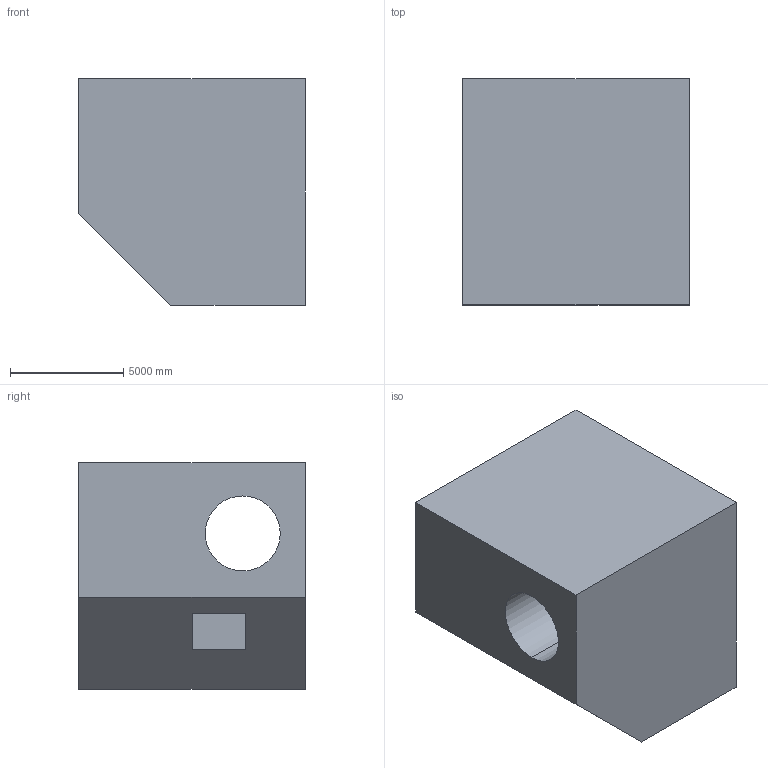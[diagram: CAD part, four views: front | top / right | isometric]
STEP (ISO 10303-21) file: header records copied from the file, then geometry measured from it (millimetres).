
FILE_DESCRIPTION (( 'STEP AP203' ), '1' );
FILE_NAME ('371.STEP', '2022-07-29T11:02:03', ( 'user' ), ( '' ), 'SwSTEP 2.0', 'SolidWorks 2021', '' );
FILE_SCHEMA (( 'CONFIG_CONTROL_DESIGN' ));
Length unit declared in the file: centimetre
Products named in the file (1): 371
Bounding box: 10000 x 10000 x 10000 mm (x, y, z)
Volume: 789165481118.9 mm3; surface area: 715215182.8 mm2
Topology: 1 solids, 1 shells, 16 faces, 36 edges, 24 vertices
Faces by surface type: plane 12, cylinder 4
Entity records: 529 total; most frequent: DIRECTION 78, CARTESIAN_POINT 77, ORIENTED_EDGE 72, EDGE_CURVE 36, LINE 28, VECTOR 28, AXIS2_PLACEMENT_3D 25, VERTEX_POINT 24
